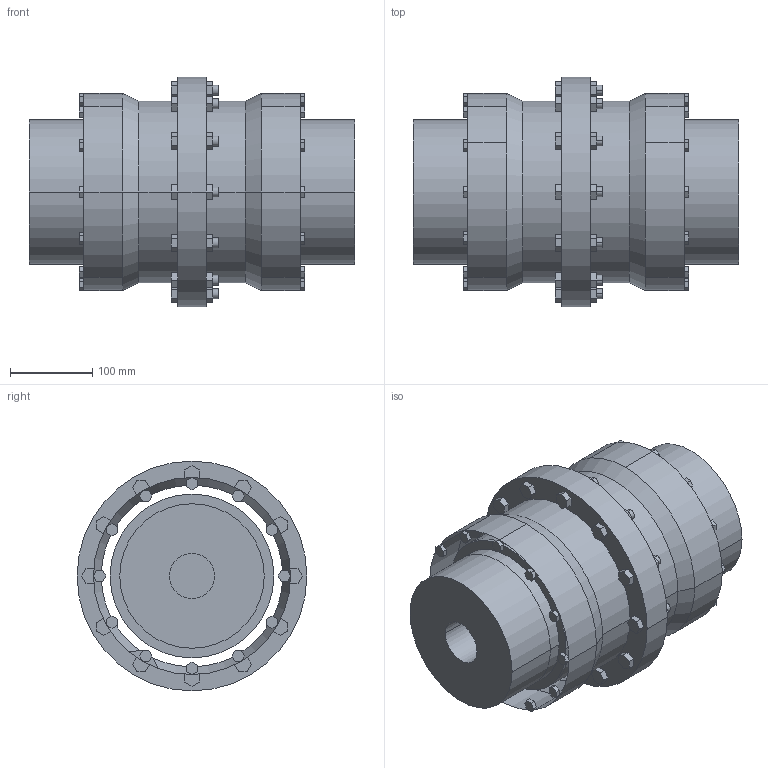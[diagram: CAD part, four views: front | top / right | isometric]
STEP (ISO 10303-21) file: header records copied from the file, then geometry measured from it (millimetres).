
FILE_DESCRIPTION((''),'2;1');
FILE_NAME('A19715500-0_ASM','2019-05-23T',('AB_Roschiwal'),('RENK AG'),'PRO/ENGINEER BY PARAMETRIC TECHNOLOGY CORPORATION, 2015440','PRO/ENGINEER BY PARAMETRIC TECHNOLOGY CORPORATION, 2015440','');
FILE_SCHEMA(('CONFIG_CONTROL_DESIGN'));
Length unit declared in the file: millimetre
Products named in the file (3): SBK110_GEHAEUSE; SBK110_NABE; A19715500-0_ASM
Assembly tree (3 placements, depth 2):
  A19715500-0_ASM
    SBK110_GEHAEUSE
    SBK110_NABE  x2
Bounding box: 396 x 280 x 280 mm (x, y, z)
Volume: 10237647.1 mm3; surface area: 729488.9 mm2
Topology: 3 solids, 3 shells, 422 faces, 1152 edges, 732 vertices
Faces by surface type: plane 362, cylinder 56, cone 4
Entity records: 12156 total; most frequent: CARTESIAN_POINT 2116, ORIENTED_EDGE 2064, DIRECTION 1980, EDGE_CURVE 1032, VECTOR 916, LINE 916, VERTEX_POINT 668, AXIS2_PLACEMENT_3D 532
